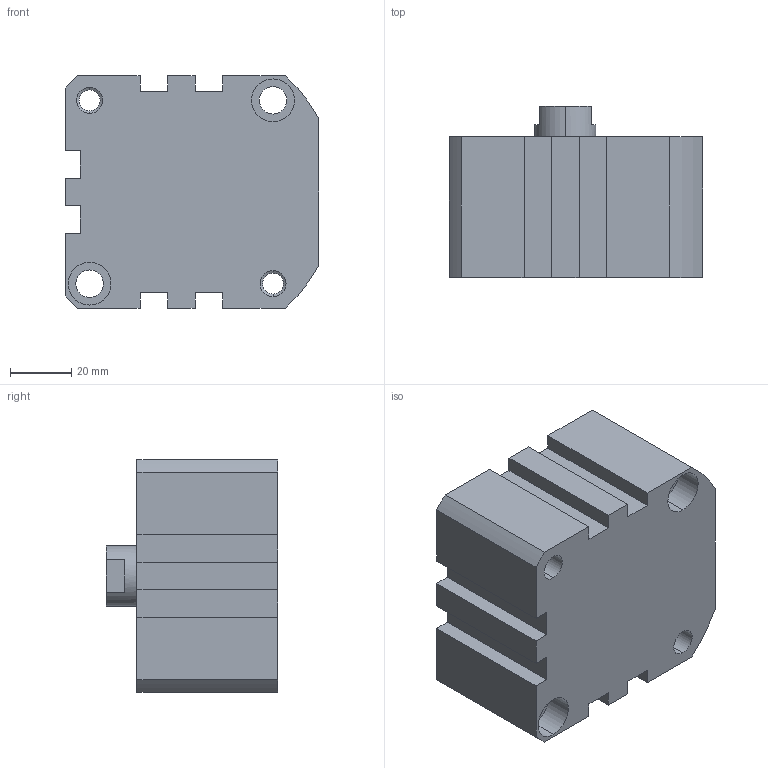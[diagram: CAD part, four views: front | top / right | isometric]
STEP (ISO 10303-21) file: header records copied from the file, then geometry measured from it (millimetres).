
FILE_DESCRIPTION (( 'STEP AP203' ), '1' );
FILE_NAME ('XC#2-63-10.STEP', '2016-05-23T08:15:28', ( '' ), ( '' ), 'SwSTEP 2.0', 'SolidWorks 2014', '' );
FILE_SCHEMA (( 'CONFIG_CONTROL_DESIGN' ));
Length unit declared in the file: millimetre
Products named in the file (1): XC#2-63-10
Bounding box: 83 x 56 x 76 mm (x, y, z)
Volume: 251244.3 mm3; surface area: 36755.2 mm2
Topology: 1 solids, 1 shells, 112 faces, 279 edges, 177 vertices
Faces by surface type: cylinder 48, plane 46, cone 18
Entity records: 3404 total; most frequent: DIRECTION 613, CARTESIAN_POINT 563, ORIENTED_EDGE 546, EDGE_CURVE 273, AXIS2_PLACEMENT_3D 227, VERTEX_POINT 177, LINE 159, VECTOR 159
